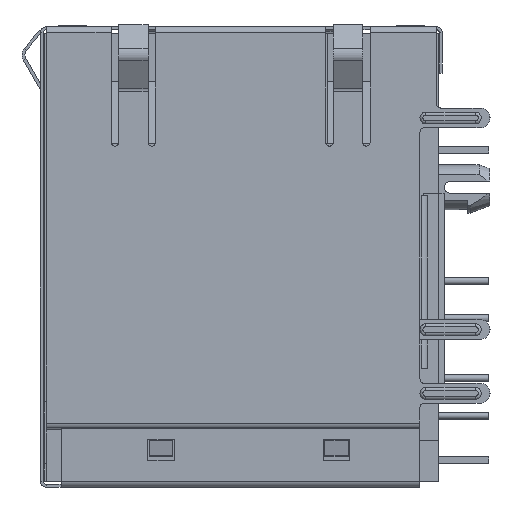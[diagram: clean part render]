
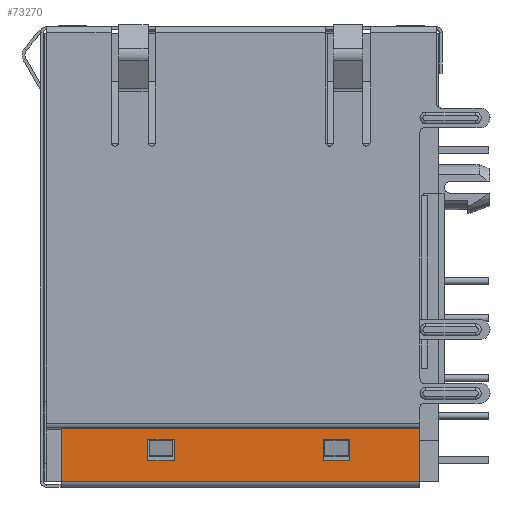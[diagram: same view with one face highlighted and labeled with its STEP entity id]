
A CAD part, left-side view. The second image highlights one B-rep face of the part: STEP entity #73270.
In plain terms, the highlighted planar face has unit normal (-1, 0, 0).
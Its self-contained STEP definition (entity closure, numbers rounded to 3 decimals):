
#60580=DIRECTION('',(0.,0.,-1.));
#60581=VECTOR('',#60580,24.335);
#60582=CARTESIAN_POINT('',(-16.695,-30.63,12.11));
#60583=LINE('',#60582,#60581);
#60598=DIRECTION('',(0.,1.,0.));
#60599=VECTOR('',#60598,3.6);
#60600=CARTESIAN_POINT('',(-16.695,-30.63,-12.225));
#60601=LINE('',#60600,#60599);
#60602=DIRECTION('',(0.,0.,1.));
#60603=VECTOR('',#60602,24.335);
#60604=CARTESIAN_POINT('',(-16.695,-27.03,-12.225));
#60605=LINE('',#60604,#60603);
#60606=DIRECTION('',(0.,-1.,0.));
#60607=VECTOR('',#60606,3.6);
#60608=CARTESIAN_POINT('',(-16.695,-27.03,12.11));
#60609=LINE('',#60608,#60607);
#60610=DIRECTION('',(0.,-1.,0.));
#60611=VECTOR('',#60610,1.45);
#60612=CARTESIAN_POINT('',(-16.695,-27.8,5.555));
#60613=LINE('',#60612,#60611);
#60614=DIRECTION('',(0.,0.,1.));
#60615=VECTOR('',#60614,1.8);
#60616=CARTESIAN_POINT('',(-16.695,-29.25,5.555));
#60617=LINE('',#60616,#60615);
#60618=DIRECTION('',(0.,1.,0.));
#60619=VECTOR('',#60618,1.45);
#60620=CARTESIAN_POINT('',(-16.695,-29.25,7.355));
#60621=LINE('',#60620,#60619);
#60622=DIRECTION('',(0.,0.,-1.));
#60623=VECTOR('',#60622,1.8);
#60624=CARTESIAN_POINT('',(-16.695,-27.8,7.355));
#60625=LINE('',#60624,#60623);
#60626=DIRECTION('',(0.,-1.,0.));
#60627=VECTOR('',#60626,1.45);
#60628=CARTESIAN_POINT('',(-16.695,-27.8,-6.345));
#60629=LINE('',#60628,#60627);
#60630=DIRECTION('',(0.,0.,1.));
#60631=VECTOR('',#60630,1.8);
#60632=CARTESIAN_POINT('',(-16.695,-29.25,-6.345));
#60633=LINE('',#60632,#60631);
#60634=DIRECTION('',(0.,1.,0.));
#60635=VECTOR('',#60634,1.45);
#60636=CARTESIAN_POINT('',(-16.695,-29.25,-4.545));
#60637=LINE('',#60636,#60635);
#60638=DIRECTION('',(0.,0.,-1.));
#60639=VECTOR('',#60638,1.8);
#60640=CARTESIAN_POINT('',(-16.695,-27.8,-4.545));
#60641=LINE('',#60640,#60639);
#63680=CARTESIAN_POINT('',(-16.695,-30.63,-12.225));
#63681=CARTESIAN_POINT('',(-16.695,-27.03,-12.225));
#63682=VERTEX_POINT('',#63680);
#63683=VERTEX_POINT('',#63681);
#63684=CARTESIAN_POINT('',(-16.695,-27.03,12.11));
#63685=VERTEX_POINT('',#63684);
#63686=CARTESIAN_POINT('',(-16.695,-30.63,12.11));
#63687=VERTEX_POINT('',#63686);
#63844=CARTESIAN_POINT('',(-16.695,-27.8,-6.345));
#63845=CARTESIAN_POINT('',(-16.695,-29.25,-6.345));
#63846=VERTEX_POINT('',#63844);
#63847=VERTEX_POINT('',#63845);
#63848=CARTESIAN_POINT('',(-16.695,-29.25,-4.545));
#63849=VERTEX_POINT('',#63848);
#63850=CARTESIAN_POINT('',(-16.695,-27.8,-4.545));
#63851=VERTEX_POINT('',#63850);
#63852=CARTESIAN_POINT('',(-16.695,-27.8,5.555));
#63853=CARTESIAN_POINT('',(-16.695,-29.25,5.555));
#63854=VERTEX_POINT('',#63852);
#63855=VERTEX_POINT('',#63853);
#63856=CARTESIAN_POINT('',(-16.695,-29.25,7.355));
#63857=VERTEX_POINT('',#63856);
#63858=CARTESIAN_POINT('',(-16.695,-27.8,7.355));
#63859=VERTEX_POINT('',#63858);
#73236=CARTESIAN_POINT('',(-16.695,-31.03,-13.225));
#73237=DIRECTION('',(1.,0.,0.));
#73238=DIRECTION('',(0.,0.,-1.));
#73239=AXIS2_PLACEMENT_3D('',#73236,#73237,#73238);
#73240=PLANE('',#73239);
#73242=ORIENTED_EDGE('',*,*,#73241,.T.);
#73244=ORIENTED_EDGE('',*,*,#73243,.T.);
#73246=ORIENTED_EDGE('',*,*,#73245,.T.);
#73247=ORIENTED_EDGE('',*,*,#73227,.T.);
#73248=EDGE_LOOP('',(#73242,#73244,#73246,#73247));
#73249=FACE_OUTER_BOUND('',#73248,.F.);
#73251=ORIENTED_EDGE('',*,*,#73250,.T.);
#73253=ORIENTED_EDGE('',*,*,#73252,.T.);
#73255=ORIENTED_EDGE('',*,*,#73254,.T.);
#73257=ORIENTED_EDGE('',*,*,#73256,.T.);
#73258=EDGE_LOOP('',(#73251,#73253,#73255,#73257));
#73259=FACE_BOUND('',#73258,.F.);
#73261=ORIENTED_EDGE('',*,*,#73260,.T.);
#73263=ORIENTED_EDGE('',*,*,#73262,.T.);
#73265=ORIENTED_EDGE('',*,*,#73264,.T.);
#73267=ORIENTED_EDGE('',*,*,#73266,.T.);
#73268=EDGE_LOOP('',(#73261,#73263,#73265,#73267));
#73269=FACE_BOUND('',#73268,.F.);
#73270=ADVANCED_FACE('',(#73249,#73259,#73269),#73240,.F.);
#73227=EDGE_CURVE('',#63687,#63682,#60583,.T.);
#73241=EDGE_CURVE('',#63682,#63683,#60601,.T.);
#73243=EDGE_CURVE('',#63683,#63685,#60605,.T.);
#73245=EDGE_CURVE('',#63685,#63687,#60609,.T.);
#73250=EDGE_CURVE('',#63854,#63855,#60613,.T.);
#73252=EDGE_CURVE('',#63855,#63857,#60617,.T.);
#73254=EDGE_CURVE('',#63857,#63859,#60621,.T.);
#73256=EDGE_CURVE('',#63859,#63854,#60625,.T.);
#73260=EDGE_CURVE('',#63846,#63847,#60629,.T.);
#73262=EDGE_CURVE('',#63847,#63849,#60633,.T.);
#73264=EDGE_CURVE('',#63849,#63851,#60637,.T.);
#73266=EDGE_CURVE('',#63851,#63846,#60641,.T.);
